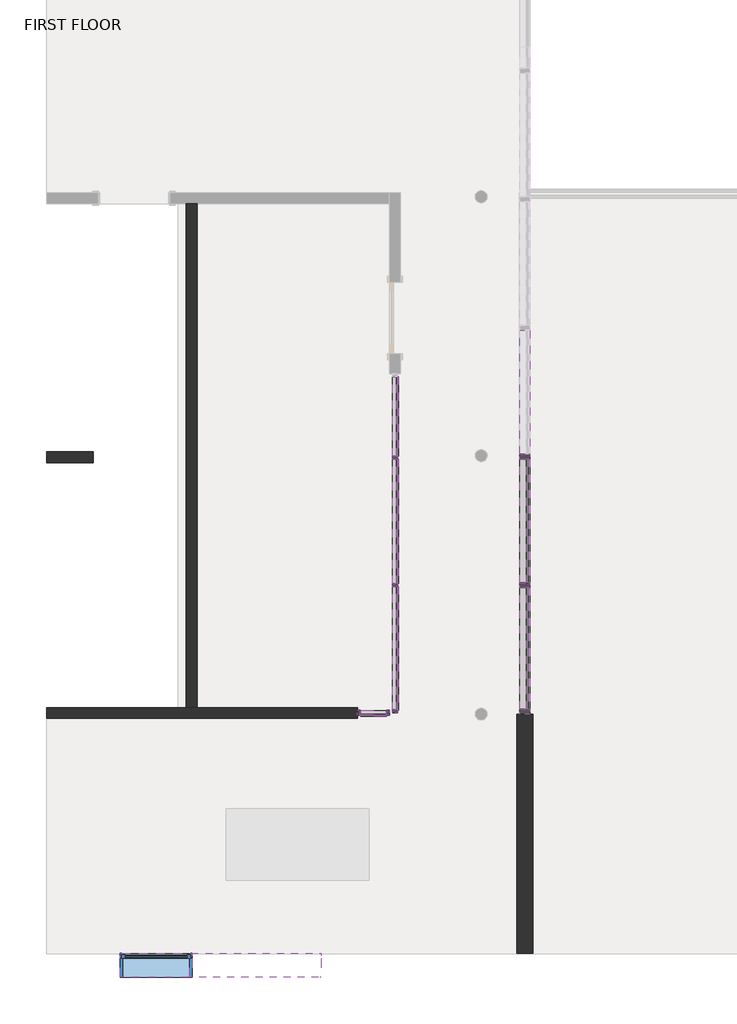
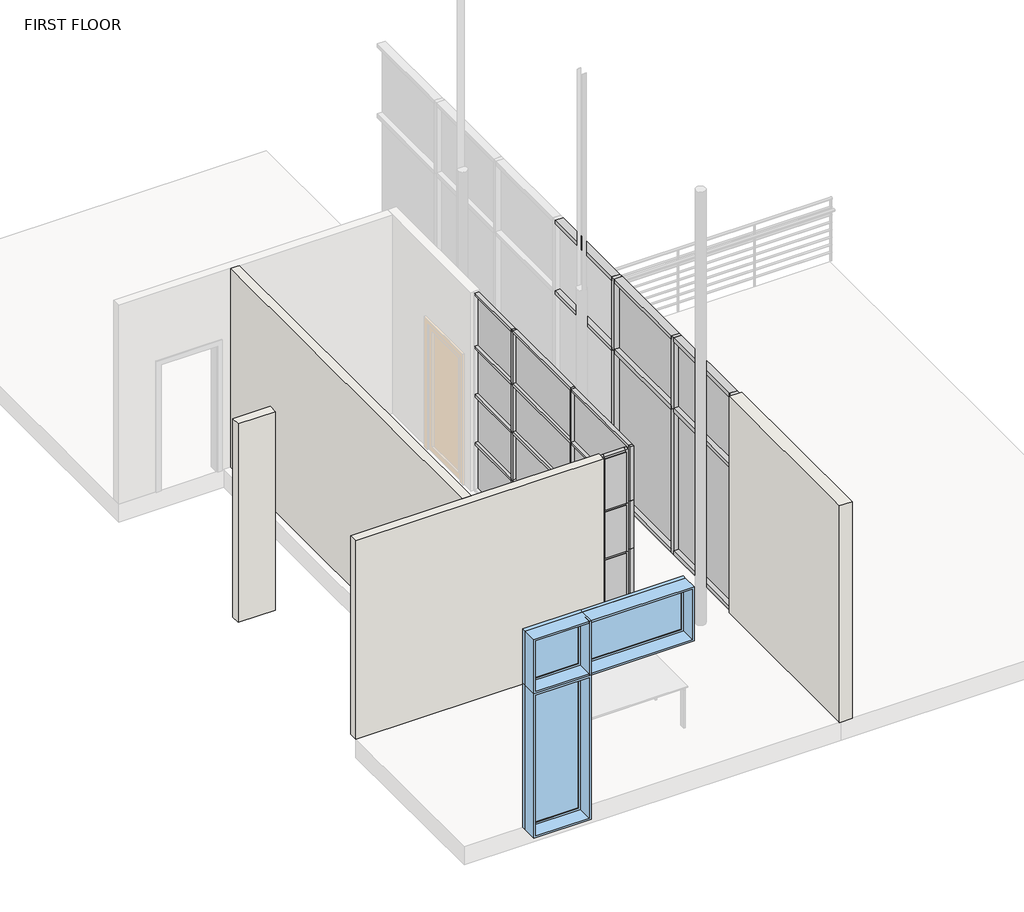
# One storey, part 1 of 2: 53 members, 20 plates, 4 walls, 3 windows.
"""IFC4 building model written with IfcOpenShell, lengths in millimetres."""

from ifc_helpers import new_model, si_unit, frame, origin, place, context, project, spatial, polyline, outline, extrude, faceted_brep, transform, mapped, element, save
from components import member_3d7f9b7e, member_a096cd44, member_be47aeaa, member_5efed619, member_481e25ef, member_17fda1fe, member_40da84cb, member_16f9eb11, member_2046a979, member_c5b617ba, member_b31159f8, member_b36b38ba, member_7ffb4a7b, member_f0fea5a5, member_591cd9a7, member_ec06d1cd, member_6ce1ec76, member_2b49869a, member_ee409385, member_75074519, system_panel_system_panel_6c834083, system_panel_system_panel_0ca576fe, system_panel_system_panel_459aa32f, system_panel_system_panel_79724349, system_panel_system_panel_5d59a0b6, system_panel_system_panel_d2f40076, system_panel_system_panel_36b3ad26, system_panel_system_panel_a8a6c9f9, system_panel_system_panel_7275595e, system_panel_system_panel_1c682c2c, system_panel_system_panel_1b284ea7, system_panel_system_panel_dfb6c3b7, system_panel_system_panel_f518bfc7, system_panel_system_panel_9512511a, system_panel_system_panel_630169c6, system_panel_system_panel_b5158d26, fixed_909a47ac, window_32fa4092, window_57972af0

model = new_model("IFC4")

# Units and contexts
model_context = context("Model", 3, world=origin())
ifc_project = project(units=[si_unit("LENGTHUNIT", "METRE", prefix="MILLI")], contexts=[model_context])

# Site, building, storey
site = spatial("IfcSite", under=ifc_project)
building = spatial("IfcBuilding", under=site)
storey = spatial("IfcBuildingStorey", under=building, Name="FIRST FLOOR", Elevation=3657.6)

# Members
placement = place(None, origin())
member_shape = member_3d7f9b7e(model_context)
element("IfcMember", 1, ObjectType="Rectangular Mullion : 1.5\" x 2.5\" rectangular", at=placement, inside=storey, context=model_context, shape_type="MappedRepresentation", body=[
    mapped(member_shape, transform((-25.1604947, -352.7189983, 7010.4), x_axis=(0.0, 0.0, 1.0), y_axis=(-1.0, 0.0, 0.0), z_axis=(0.0, -1.0, 0.0))),
])
member_2_shape = member_a096cd44(model_context)
element("IfcMember", 2, ObjectType="Rectangular Mullion : 1.5\" x 2.5\" rectangular", at=placement, inside=storey, context=model_context, shape_type="MappedRepresentation", body=[
    mapped(member_2_shape, transform((-25.1604947, -3584.8689983, 7010.4), x_axis=(0.0, 0.0, 1.0), y_axis=(-1.0, 0.0, 0.0), z_axis=(0.0, -1.0, 0.0))),
])
member_3_shape = member_be47aeaa(model_context)
element("IfcMember", 3, ObjectType="Rectangular Mullion : 1.5\" x 2.5\" rectangular", at=placement, inside=storey, context=model_context, shape_type="MappedRepresentation", body=[
    mapped(member_3_shape, transform((-25.1604947, -371.7689983, 3657.6), x_axis=(0.0, -1.0, 0.0), y_axis=(-1.0, 0.0, 0.0), z_axis=(0.0, 0.0, -1.0))),
])
element("IfcMember", 4, ObjectType="Rectangular Mullion : 1.5\" x 2.5\" rectangular", at=placement, inside=storey, context=model_context, shape_type="MappedRepresentation", body=[
    mapped(member_3_shape, transform((-25.1604947, -1997.3689983, 3657.6), x_axis=(0.0, -1.0, 0.0), y_axis=(-1.0, 0.0, 0.0), z_axis=(0.0, 0.0, -1.0))),
])
member_4_shape = member_5efed619(model_context)
element("IfcMember", 5, ObjectType="Rectangular Mullion : 1.5\" x 2.5\" rectangular", at=placement, inside=storey, context=model_context, shape_type="MappedRepresentation", body=[
    mapped(member_4_shape, transform((-25.1604947, -352.7189983, 6096.0), x_axis=(0.0, 0.0, 1.0), y_axis=(-1.0, 0.0, 0.0), z_axis=(0.0, -1.0, 0.0))),
])
element("IfcMember", 6, ObjectType="Rectangular Mullion : 1.5\" x 2.5\" rectangular", at=placement, inside=storey, context=model_context, shape_type="MappedRepresentation", body=[
    mapped(member_4_shape, transform((-25.1604947, -352.7189983, 5283.2), x_axis=(0.0, 0.0, 1.0), y_axis=(-1.0, 0.0, 0.0), z_axis=(0.0, -1.0, 0.0))),
])
element("IfcMember", 7, ObjectType="Rectangular Mullion : 1.5\" x 2.5\" rectangular", at=placement, inside=storey, context=model_context, shape_type="MappedRepresentation", body=[
    mapped(member_4_shape, transform((-25.1604947, -352.7189983, 4470.4), x_axis=(0.0, 0.0, 1.0), y_axis=(-1.0, 0.0, 0.0), z_axis=(0.0, -1.0, 0.0))),
])
member_5_shape = member_481e25ef(model_context)
element("IfcMember", 8, ObjectType="Rectangular Mullion : 1.5\" x 2.5\" rectangular", at=placement, inside=storey, context=model_context, shape_type="MappedRepresentation", body=[
    mapped(member_5_shape, transform((-25.1604947, -1978.3189983, 6096.0), x_axis=(0.0, 0.0, 1.0), y_axis=(-1.0, 0.0, 0.0), z_axis=(0.0, -1.0, 0.0))),
])
element("IfcMember", 9, ObjectType="Rectangular Mullion : 1.5\" x 2.5\" rectangular", at=placement, inside=storey, context=model_context, shape_type="MappedRepresentation", body=[
    mapped(member_5_shape, transform((-25.1604947, -1978.3189983, 5283.2), x_axis=(0.0, 0.0, 1.0), y_axis=(-1.0, 0.0, 0.0), z_axis=(0.0, -1.0, 0.0))),
])
element("IfcMember", 10, ObjectType="Rectangular Mullion : 1.5\" x 2.5\" rectangular", at=placement, inside=storey, context=model_context, shape_type="MappedRepresentation", body=[
    mapped(member_5_shape, transform((-25.1604947, -1978.3189983, 4470.4), x_axis=(0.0, 0.0, 1.0), y_axis=(-1.0, 0.0, 0.0), z_axis=(0.0, -1.0, 0.0))),
])
member_6_shape = member_17fda1fe(model_context)
element("IfcMember", 11, ObjectType="Rectangular Mullion : 1.5\" x 2.5\" rectangular", at=placement, inside=storey, context=model_context, shape_type="MappedRepresentation", body=[
    mapped(member_6_shape, transform((-25.1604947, -3584.8689983, 6096.0), x_axis=(0.0, 0.0, 1.0), y_axis=(-1.0, 0.0, 0.0), z_axis=(0.0, -1.0, 0.0))),
])
element("IfcMember", 12, ObjectType="Rectangular Mullion : 1.5\" x 2.5\" rectangular", at=placement, inside=storey, context=model_context, shape_type="MappedRepresentation", body=[
    mapped(member_6_shape, transform((-25.1604947, -3584.8689983, 5283.2), x_axis=(0.0, 0.0, 1.0), y_axis=(-1.0, 0.0, 0.0), z_axis=(0.0, -1.0, 0.0))),
])
element("IfcMember", 13, ObjectType="Rectangular Mullion : 1.5\" x 2.5\" rectangular", at=placement, inside=storey, context=model_context, shape_type="MappedRepresentation", body=[
    mapped(member_6_shape, transform((-25.1604947, -3584.8689983, 4470.4), x_axis=(0.0, 0.0, 1.0), y_axis=(-1.0, 0.0, 0.0), z_axis=(0.0, -1.0, 0.0))),
])
member_7_shape = member_40da84cb(model_context)
element("IfcMember", 14, ObjectType="Rectangular Mullion : 1.5\" x 2.5\" rectangular", at=placement, inside=storey, context=model_context, shape_type="MappedRepresentation", body=[
    mapped(member_7_shape, transform((-25.1604947, -1978.3189983, 7010.4), x_axis=(0.0, 0.0, 1.0), y_axis=(-1.0, 0.0, 0.0), z_axis=(0.0, -1.0, 0.0))),
])
member_8_shape = member_16f9eb11(model_context)
element("IfcMember", 15, ObjectType="Rectangular Mullion : 1.5\" x 2.5\" rectangular", at=placement, inside=storey, context=model_context, shape_type="MappedRepresentation", body=[
    mapped(member_8_shape, transform((-25.1604947, -371.7689983, 6096.0), x_axis=(0.0, -1.0, 0.0), y_axis=(-1.0, 0.0, 0.0), z_axis=(0.0, 0.0, -1.0))),
])
element("IfcMember", 16, ObjectType="Rectangular Mullion : 1.5\" x 2.5\" rectangular", at=placement, inside=storey, context=model_context, shape_type="MappedRepresentation", body=[
    mapped(member_8_shape, transform((-25.1604947, -1997.3689983, 6096.0), x_axis=(0.0, -1.0, 0.0), y_axis=(-1.0, 0.0, 0.0), z_axis=(0.0, 0.0, -1.0))),
])
element("IfcMember", 17, ObjectType="Rectangular Mullion : 1.5\" x 2.5\" rectangular", at=placement, inside=storey, context=model_context, shape_type="MappedRepresentation", body=[
    mapped(member_3_shape, transform((-25.1604947, -371.7689983, 5283.2), x_axis=(0.0, -1.0, 0.0), y_axis=(-1.0, 0.0, 0.0), z_axis=(0.0, 0.0, -1.0))),
])
element("IfcMember", 18, ObjectType="Rectangular Mullion : 1.5\" x 2.5\" rectangular", at=placement, inside=storey, context=model_context, shape_type="MappedRepresentation", body=[
    mapped(member_3_shape, transform((-25.1604947, -371.7689983, 4470.4), x_axis=(0.0, -1.0, 0.0), y_axis=(-1.0, 0.0, 0.0), z_axis=(0.0, 0.0, -1.0))),
])
element("IfcMember", 19, ObjectType="Rectangular Mullion : 1.5\" x 2.5\" rectangular", at=placement, inside=storey, context=model_context, shape_type="MappedRepresentation", body=[
    mapped(member_3_shape, transform((-25.1604947, -1997.3689983, 5283.2), x_axis=(0.0, -1.0, 0.0), y_axis=(-1.0, 0.0, 0.0), z_axis=(0.0, 0.0, -1.0))),
])
element("IfcMember", 20, ObjectType="Rectangular Mullion : 1.5\" x 2.5\" rectangular", at=placement, inside=storey, context=model_context, shape_type="MappedRepresentation", body=[
    mapped(member_3_shape, transform((-25.1604947, -1997.3689983, 4470.4), x_axis=(0.0, -1.0, 0.0), y_axis=(-1.0, 0.0, 0.0), z_axis=(0.0, 0.0, -1.0))),
])
member_9_shape = member_2046a979(model_context)
element("IfcMember", 21, ObjectType="Rectangular Mullion : 1.5\" x 2.5\" rectangular", at=placement, inside=storey, context=model_context, shape_type="MappedRepresentation", body=[
    mapped(member_9_shape, transform((-25.1604947, -3622.9689983, 3657.6), x_axis=(0.0, -1.0, 0.0), y_axis=(-1.0, 0.0, 0.0), z_axis=(0.0, 0.0, -1.0))),
])
element("IfcMember", 22, ObjectType="Rectangular Mullion : 1.5\" x 2.5\" rectangular", at=placement, inside=storey, context=model_context, shape_type="MappedRepresentation", body=[
    mapped(member_9_shape, transform((-507.7604947, -3622.9689983, 3657.6), x_axis=(-1.0, 0.0, 0.0), y_axis=(0.0, 1.0, 0.0), z_axis=(0.0, 0.0, -1.0))),
])
member_10_shape = member_c5b617ba(model_context)
element("IfcMember", 23, ObjectType="Rectangular Mullion : 1.5\" x 2.5\" rectangular", at=placement, inside=storey, context=model_context, shape_type="MappedRepresentation", body=[
    mapped(member_10_shape, transform((-25.1604947, -3622.9689983, 6096.0), x_axis=(0.0, -1.0, 0.0), y_axis=(-1.0, 0.0, 0.0), z_axis=(0.0, 0.0, -1.0))),
])
element("IfcMember", 24, ObjectType="Rectangular Mullion : 1.5\" x 2.5\" rectangular", at=placement, inside=storey, context=model_context, shape_type="MappedRepresentation", body=[
    mapped(member_10_shape, transform((-507.7604947, -3622.9689983, 6096.0), x_axis=(-1.0, 0.0, 0.0), y_axis=(0.0, 1.0, 0.0), z_axis=(0.0, 0.0, -1.0))),
])
element("IfcMember", 25, ObjectType="Rectangular Mullion : 1.5\" x 2.5\" rectangular", at=placement, inside=storey, context=model_context, shape_type="MappedRepresentation", body=[
    mapped(member_9_shape, transform((-25.1604947, -3622.9689983, 5283.2), x_axis=(0.0, -1.0, 0.0), y_axis=(-1.0, 0.0, 0.0), z_axis=(0.0, 0.0, -1.0))),
])
element("IfcMember", 26, ObjectType="Rectangular Mullion : 1.5\" x 2.5\" rectangular", at=placement, inside=storey, context=model_context, shape_type="MappedRepresentation", body=[
    mapped(member_9_shape, transform((-25.1604947, -3622.9689983, 4470.4), x_axis=(0.0, -1.0, 0.0), y_axis=(-1.0, 0.0, 0.0), z_axis=(0.0, 0.0, -1.0))),
])
element("IfcMember", 27, ObjectType="Rectangular Mullion : 1.5\" x 2.5\" rectangular", at=placement, inside=storey, context=model_context, shape_type="MappedRepresentation", body=[
    mapped(member_9_shape, transform((-507.7604947, -3622.9689983, 5283.2), x_axis=(-1.0, 0.0, 0.0), y_axis=(0.0, 1.0, 0.0), z_axis=(0.0, 0.0, -1.0))),
])
element("IfcMember", 28, ObjectType="Rectangular Mullion : 1.5\" x 2.5\" rectangular", at=placement, inside=storey, context=model_context, shape_type="MappedRepresentation", body=[
    mapped(member_9_shape, transform((-507.7604947, -3622.9689983, 4470.4), x_axis=(-1.0, 0.0, 0.0), y_axis=(0.0, 1.0, 0.0), z_axis=(0.0, 0.0, -1.0))),
])
member_11_shape = member_b31159f8(model_context)
element("IfcMember", 29, ObjectType="Rectangular Mullion : 1.5\" x 2.5\" rectangular", at=placement, inside=storey, context=model_context, shape_type="MappedRepresentation", body=[
    mapped(member_11_shape, transform((-469.6604947, -3622.9689983, 7010.4), x_axis=(0.0, 0.0, 1.0), y_axis=(0.0, 1.0, 0.0), z_axis=(-1.0, 0.0, 0.0))),
])
member_12_shape = member_b36b38ba(model_context)
element("IfcMember", 30, ObjectType="Rectangular Mullion : 1.5\" x 2.5\" rectangular", at=placement, inside=storey, context=model_context, shape_type="MappedRepresentation", body=[
    mapped(member_12_shape, transform((-469.6604947, -3622.9689983, 6096.0), x_axis=(0.0, 0.0, 1.0), y_axis=(0.0, 1.0, 0.0), z_axis=(-1.0, 0.0, 0.0))),
])
element("IfcMember", 31, ObjectType="Rectangular Mullion : 1.5\" x 2.5\" rectangular", at=placement, inside=storey, context=model_context, shape_type="MappedRepresentation", body=[
    mapped(member_12_shape, transform((-469.6604947, -3622.9689983, 5283.2), x_axis=(0.0, 0.0, 1.0), y_axis=(0.0, 1.0, 0.0), z_axis=(-1.0, 0.0, 0.0))),
])
element("IfcMember", 32, ObjectType="Rectangular Mullion : 1.5\" x 2.5\" rectangular", at=placement, inside=storey, context=model_context, shape_type="MappedRepresentation", body=[
    mapped(member_12_shape, transform((-469.6604947, -3622.9689983, 4470.4), x_axis=(0.0, 0.0, 1.0), y_axis=(0.0, 1.0, 0.0), z_axis=(-1.0, 0.0, 0.0))),
])
element("IfcMember", 33, ObjectType="Rectangular Mullion : 1.5\" x 2.5\" rectangular", at=placement, inside=storey, context=model_context, shape_type="MappedRepresentation", body=[
    mapped(member_11_shape, transform((-133.1104947, -3622.9689983, 3657.6), x_axis=(0.0, 0.0, -1.0), y_axis=(0.0, 1.0, 0.0), z_axis=(1.0, 0.0, 0.0))),
])
element("IfcMember", 34, ObjectType="Rectangular Mullion : 1.5\" x 2.5\" rectangular", at=placement, inside=storey, context=model_context, shape_type="MappedRepresentation", body=[
    mapped(member_7_shape, transform((-25.1604947, -390.8189983, 3657.6), x_axis=(0.0, 0.0, -1.0), y_axis=(-1.0, 0.0, 0.0), z_axis=(0.0, 1.0, 0.0))),
])
element("IfcMember", 35, ObjectType="Rectangular Mullion : 1.5\" x 2.5\" rectangular", at=placement, inside=storey, context=model_context, shape_type="MappedRepresentation", body=[
    mapped(member_2_shape, transform((-25.1604947, -2016.4189983, 3657.6), x_axis=(0.0, 0.0, -1.0), y_axis=(-1.0, 0.0, 0.0), z_axis=(0.0, 1.0, 0.0))),
])
element("IfcMember", 36, ObjectType="Rectangular Mullion : 1.5\" x 2.5\" rectangular", at=placement, inside=storey, context=model_context, shape_type="MappedRepresentation", body=[
    mapped(member_10_shape, transform((-95.0104947, -3622.9689983, 7010.4), x_axis=(1.0, 0.0, 0.0), y_axis=(0.0, 1.0, 0.0), z_axis=(0.0, 0.0, 1.0))),
])
element("IfcMember", 37, ObjectType="Rectangular Mullion : 1.5\" x 2.5\" rectangular", at=placement, inside=storey, context=model_context, shape_type="MappedRepresentation", body=[
    mapped(member_9_shape, transform((-95.0104947, -3622.9689983, 6096.0), x_axis=(1.0, 0.0, 0.0), y_axis=(0.0, 1.0, 0.0), z_axis=(0.0, 0.0, 1.0))),
])
element("IfcMember", 38, ObjectType="Rectangular Mullion : 1.5\" x 2.5\" rectangular", at=placement, inside=storey, context=model_context, shape_type="MappedRepresentation", body=[
    mapped(member_9_shape, transform((-95.0104947, -3622.9689983, 5283.2), x_axis=(1.0, 0.0, 0.0), y_axis=(0.0, 1.0, 0.0), z_axis=(0.0, 0.0, 1.0))),
])
element("IfcMember", 39, ObjectType="Rectangular Mullion : 1.5\" x 2.5\" rectangular", at=placement, inside=storey, context=model_context, shape_type="MappedRepresentation", body=[
    mapped(member_9_shape, transform((-95.0104947, -3622.9689983, 4470.4), x_axis=(1.0, 0.0, 0.0), y_axis=(0.0, 1.0, 0.0), z_axis=(0.0, 0.0, 1.0))),
])
member_13_shape = member_7ffb4a7b(model_context)
element("IfcMember", 40, ObjectType="Rectangular Mullion : 2.5\" x 5\" rectangular", at=placement, inside=storey, context=model_context, shape_type="MappedRepresentation", body=[
    mapped(member_13_shape, transform((1628.9560388, -3573.040357, 7315.2), x_axis=(0.0, 0.0, 1.0), y_axis=(-1.0, 0.0, 0.0), z_axis=(0.0, -1.0, 0.0))),
])
member_14_shape = member_f0fea5a5(model_context)
element("IfcMember", 41, ObjectType="Rectangular Mullion : 2.5\" x 5\" rectangular", at=placement, inside=storey, context=model_context, shape_type="MappedRepresentation", body=[
    mapped(member_14_shape, transform((1628.9560388, -359.940357, 3657.6), x_axis=(0.0, -1.0, 0.0), y_axis=(-1.0, 0.0, 0.0), z_axis=(0.0, 0.0, -1.0))),
])
element("IfcMember", 42, ObjectType="Rectangular Mullion : 2.5\" x 5\" rectangular", at=placement, inside=storey, context=model_context, shape_type="MappedRepresentation", body=[
    mapped(member_14_shape, transform((1628.9560388, -1998.240357, 3657.6), x_axis=(0.0, -1.0, 0.0), y_axis=(-1.0, 0.0, 0.0), z_axis=(0.0, 0.0, -1.0))),
])
member_15_shape = member_591cd9a7(model_context)
element("IfcMember", 43, ObjectType="Rectangular Mullion : 2.5\" x 5\" rectangular", at=placement, inside=storey, context=model_context, shape_type="MappedRepresentation", body=[
    mapped(member_15_shape, transform((1628.9560388, -1966.490357, 6096.0), x_axis=(0.0, 0.0, 1.0), y_axis=(-1.0, 0.0, 0.0), z_axis=(0.0, -1.0, 0.0))),
])
element("IfcMember", 44, ObjectType="Rectangular Mullion : 2.5\" x 5\" rectangular", at=placement, inside=storey, context=model_context, shape_type="MappedRepresentation", body=[
    mapped(member_15_shape, transform((1628.9560388, -328.190357, 6096.0), x_axis=(0.0, 0.0, 1.0), y_axis=(-1.0, 0.0, 0.0), z_axis=(0.0, -1.0, 0.0))),
])
member_16_shape = member_ec06d1cd(model_context)
element("IfcMember", 45, ObjectType="Rectangular Mullion : 2.5\" x 5\" rectangular", at=placement, inside=storey, context=model_context, shape_type="MappedRepresentation", body=[
    mapped(member_16_shape, transform((1628.9560388, -3573.040357, 6096.0), x_axis=(0.0, 0.0, 1.0), y_axis=(-1.0, 0.0, 0.0), z_axis=(0.0, -1.0, 0.0))),
])
member_17_shape = member_6ce1ec76(model_context)
element("IfcMember", 46, ObjectType="Rectangular Mullion : 2.5\" x 5\" rectangular", at=placement, inside=storey, context=model_context, shape_type="MappedRepresentation", body=[
    mapped(member_17_shape, transform((1628.9560388, -328.190357, 7315.2), x_axis=(0.0, 0.0, 1.0), y_axis=(-1.0, 0.0, 0.0), z_axis=(0.0, -1.0, 0.0))),
])
element("IfcMember", 47, ObjectType="Rectangular Mullion : 2.5\" x 5\" rectangular", at=placement, inside=storey, context=model_context, shape_type="MappedRepresentation", body=[
    mapped(member_17_shape, transform((1628.9560388, -1966.490357, 7315.2), x_axis=(0.0, 0.0, 1.0), y_axis=(-1.0, 0.0, 0.0), z_axis=(0.0, -1.0, 0.0))),
])
member_18_shape = member_2b49869a(model_context)
element("IfcMember", 48, ObjectType="Rectangular Mullion : 2.5\" x 5\" rectangular", at=placement, inside=storey, context=model_context, shape_type="MappedRepresentation", body=[
    mapped(member_18_shape, transform((1628.9560388, -359.940357, 6096.0), x_axis=(0.0, -1.0, 0.0), y_axis=(-1.0, 0.0, 0.0), z_axis=(0.0, 0.0, -1.0))),
])
element("IfcMember", 49, ObjectType="Rectangular Mullion : 2.5\" x 5\" rectangular", at=placement, inside=storey, context=model_context, shape_type="MappedRepresentation", body=[
    mapped(member_18_shape, transform((1628.9560388, -1998.240357, 6096.0), x_axis=(0.0, -1.0, 0.0), y_axis=(-1.0, 0.0, 0.0), z_axis=(0.0, 0.0, -1.0))),
])
member_19_shape = member_ee409385(model_context)
element("IfcMember", 50, ObjectType="Rectangular Mullion : 2.5\" x 5\" rectangular", at=placement, inside=storey, context=model_context, shape_type="MappedRepresentation", body=[
    mapped(member_19_shape, transform((1628.9560388, -3636.540357, 3657.6), x_axis=(0.0, -1.0, 0.0), y_axis=(-1.0, 0.0, 0.0), z_axis=(0.0, 0.0, -1.0))),
])
member_20_shape = member_75074519(model_context)
element("IfcMember", 51, ObjectType="Rectangular Mullion : 2.5\" x 5\" rectangular", at=placement, inside=storey, context=model_context, shape_type="MappedRepresentation", body=[
    mapped(member_20_shape, transform((1628.9560388, -3636.540357, 6096.0), x_axis=(0.0, -1.0, 0.0), y_axis=(-1.0, 0.0, 0.0), z_axis=(0.0, 0.0, -1.0))),
])
element("IfcMember", 52, ObjectType="Rectangular Mullion : 2.5\" x 5\" rectangular", at=placement, inside=storey, context=model_context, shape_type="MappedRepresentation", body=[
    mapped(member_17_shape, transform((1628.9560388, -391.690357, 3657.6), x_axis=(0.0, 0.0, -1.0), y_axis=(-1.0, 0.0, 0.0), z_axis=(0.0, 1.0, 0.0))),
])
element("IfcMember", 53, ObjectType="Rectangular Mullion : 2.5\" x 5\" rectangular", at=placement, inside=storey, context=model_context, shape_type="MappedRepresentation", body=[
    mapped(member_13_shape, transform((1628.9560388, -2029.990357, 3657.6), x_axis=(0.0, 0.0, -1.0), y_axis=(-1.0, 0.0, 0.0), z_axis=(0.0, 1.0, 0.0))),
])

# Plates
system_panel_system_panel_shape = system_panel_system_panel_6c834083(model_context)
element("IfcPlate", 54, ObjectType="System Panel : System Panel", at=placement, inside=storey, context=model_context, shape_type="MappedRepresentation", body=[
    mapped(system_panel_system_panel_shape, transform((1628.9560388, -1179.090357, 3721.1), x_axis=(0.0, -1.0, 0.0), y_axis=(1.0, 0.0, 0.0), z_axis=(0.0, 0.0, 1.0))),
])
system_panel_system_panel_2_shape = system_panel_system_panel_0ca576fe(model_context)
element("IfcPlate", 55, ObjectType="System Panel : System Panel", at=placement, inside=storey, context=model_context, shape_type="MappedRepresentation", body=[
    mapped(system_panel_system_panel_2_shape, transform((1628.9560388, -1179.090357, 6127.75), x_axis=(0.0, -1.0, 0.0), y_axis=(1.0, 0.0, 0.0), z_axis=(0.0, 0.0, 1.0))),
])
system_panel_system_panel_3_shape = system_panel_system_panel_459aa32f(model_context)
element("IfcPlate", 56, ObjectType="System Panel : System Panel", at=placement, inside=storey, context=model_context, shape_type="MappedRepresentation", body=[
    mapped(system_panel_system_panel_3_shape, transform((1628.9560388, -2801.515357, 3721.1), x_axis=(0.0, -1.0, 0.0), y_axis=(1.0, 0.0, 0.0), z_axis=(0.0, 0.0, 1.0))),
])
system_panel_system_panel_4_shape = system_panel_system_panel_79724349(model_context)
element("IfcPlate", 57, ObjectType="System Panel : System Panel", at=placement, inside=storey, context=model_context, shape_type="MappedRepresentation", body=[
    mapped(system_panel_system_panel_4_shape, transform((1628.9560388, -2801.515357, 6127.75), x_axis=(0.0, -1.0, 0.0), y_axis=(1.0, 0.0, 0.0), z_axis=(0.0, 0.0, 1.0))),
])
system_panel_system_panel_5_shape = system_panel_system_panel_5d59a0b6(model_context)
element("IfcPlate", 58, ObjectType="System Panel : System Panel", at=placement, inside=storey, context=model_context, shape_type="MappedRepresentation", body=[
    mapped(system_panel_system_panel_5_shape, transform((-25.1604947, 152.1060017, 3695.7), x_axis=(0.0, -1.0, 0.0), y_axis=(1.0, 0.0, 0.0), z_axis=(0.0, 0.0, 1.0))),
])
system_panel_system_panel_6_shape = system_panel_system_panel_d2f40076(model_context)
element("IfcPlate", 59, ObjectType="System Panel : System Panel", at=placement, inside=storey, context=model_context, shape_type="MappedRepresentation", body=[
    mapped(system_panel_system_panel_6_shape, transform((-25.1604947, -1184.5689983, 3695.7), x_axis=(0.0, -1.0, 0.0), y_axis=(1.0, 0.0, 0.0), z_axis=(0.0, 0.0, 1.0))),
])
system_panel_system_panel_7_shape = system_panel_system_panel_36b3ad26(model_context)
element("IfcPlate", 60, ObjectType="System Panel : System Panel", at=placement, inside=storey, context=model_context, shape_type="MappedRepresentation", body=[
    mapped(system_panel_system_panel_7_shape, transform((-25.1604947, -2800.6439983, 3695.7), x_axis=(0.0, -1.0, 0.0), y_axis=(1.0, 0.0, 0.0), z_axis=(0.0, 0.0, 1.0))),
])
system_panel_system_panel_8_shape = system_panel_system_panel_a8a6c9f9(model_context)
element("IfcPlate", 61, ObjectType="System Panel : System Panel", at=placement, inside=storey, context=model_context, shape_type="MappedRepresentation", body=[
    mapped(system_panel_system_panel_8_shape, transform((-25.1604947, 152.1060017, 6115.05), x_axis=(0.0, -1.0, 0.0), y_axis=(1.0, 0.0, 0.0), z_axis=(0.0, 0.0, 1.0))),
])
system_panel_system_panel_9_shape = system_panel_system_panel_7275595e(model_context)
element("IfcPlate", 62, ObjectType="System Panel : System Panel", at=placement, inside=storey, context=model_context, shape_type="MappedRepresentation", body=[
    mapped(system_panel_system_panel_9_shape, transform((-25.1604947, -1184.5689983, 6115.05), x_axis=(0.0, -1.0, 0.0), y_axis=(1.0, 0.0, 0.0), z_axis=(0.0, 0.0, 1.0))),
])
system_panel_system_panel_10_shape = system_panel_system_panel_1c682c2c(model_context)
element("IfcPlate", 63, ObjectType="System Panel : System Panel", at=placement, inside=storey, context=model_context, shape_type="MappedRepresentation", body=[
    mapped(system_panel_system_panel_10_shape, transform((-25.1604947, -2800.6439983, 6115.05), x_axis=(0.0, -1.0, 0.0), y_axis=(1.0, 0.0, 0.0), z_axis=(0.0, 0.0, 1.0))),
])
system_panel_system_panel_11_shape = system_panel_system_panel_1b284ea7(model_context)
element("IfcPlate", 64, ObjectType="System Panel : System Panel", at=placement, inside=storey, context=model_context, shape_type="MappedRepresentation", body=[
    mapped(system_panel_system_panel_11_shape, transform((-25.1604947, 152.1060017, 5302.25), x_axis=(0.0, -1.0, 0.0), y_axis=(1.0, 0.0, 0.0), z_axis=(0.0, 0.0, 1.0))),
])
element("IfcPlate", 65, ObjectType="System Panel : System Panel", at=placement, inside=storey, context=model_context, shape_type="MappedRepresentation", body=[
    mapped(system_panel_system_panel_11_shape, transform((-25.1604947, 152.1060017, 4489.45), x_axis=(0.0, -1.0, 0.0), y_axis=(1.0, 0.0, 0.0), z_axis=(0.0, 0.0, 1.0))),
])
system_panel_system_panel_12_shape = system_panel_system_panel_dfb6c3b7(model_context)
element("IfcPlate", 66, ObjectType="System Panel : System Panel", at=placement, inside=storey, context=model_context, shape_type="MappedRepresentation", body=[
    mapped(system_panel_system_panel_12_shape, transform((-25.1604947, -1184.5689983, 5302.25), x_axis=(0.0, -1.0, 0.0), y_axis=(1.0, 0.0, 0.0), z_axis=(0.0, 0.0, 1.0))),
])
element("IfcPlate", 67, ObjectType="System Panel : System Panel", at=placement, inside=storey, context=model_context, shape_type="MappedRepresentation", body=[
    mapped(system_panel_system_panel_12_shape, transform((-25.1604947, -1184.5689983, 4489.45), x_axis=(0.0, -1.0, 0.0), y_axis=(1.0, 0.0, 0.0), z_axis=(0.0, 0.0, 1.0))),
])
system_panel_system_panel_13_shape = system_panel_system_panel_f518bfc7(model_context)
element("IfcPlate", 68, ObjectType="System Panel : System Panel", at=placement, inside=storey, context=model_context, shape_type="MappedRepresentation", body=[
    mapped(system_panel_system_panel_13_shape, transform((-25.1604947, -2800.6439983, 5302.25), x_axis=(0.0, -1.0, 0.0), y_axis=(1.0, 0.0, 0.0), z_axis=(0.0, 0.0, 1.0))),
])
element("IfcPlate", 69, ObjectType="System Panel : System Panel", at=placement, inside=storey, context=model_context, shape_type="MappedRepresentation", body=[
    mapped(system_panel_system_panel_13_shape, transform((-25.1604947, -2800.6439983, 4489.45), x_axis=(0.0, -1.0, 0.0), y_axis=(1.0, 0.0, 0.0), z_axis=(0.0, 0.0, 1.0))),
])
system_panel_system_panel_14_shape = system_panel_system_panel_9512511a(model_context)
element("IfcPlate", 70, ObjectType="System Panel : System Panel", at=placement, inside=storey, context=model_context, shape_type="MappedRepresentation", body=[
    mapped(system_panel_system_panel_14_shape, transform((-301.3854947, -3622.9689983, 3695.7), x_axis=(-1.0, 0.0, 0.0), y_axis=(0.0, -1.0, 0.0), z_axis=(0.0, 0.0, 1.0))),
])
system_panel_system_panel_15_shape = system_panel_system_panel_630169c6(model_context)
element("IfcPlate", 71, ObjectType="System Panel : System Panel", at=placement, inside=storey, context=model_context, shape_type="MappedRepresentation", body=[
    mapped(system_panel_system_panel_15_shape, transform((-301.3854947, -3622.9689983, 6115.05), x_axis=(-1.0, 0.0, 0.0), y_axis=(0.0, -1.0, 0.0), z_axis=(0.0, 0.0, 1.0))),
])
system_panel_system_panel_16_shape = system_panel_system_panel_b5158d26(model_context)
element("IfcPlate", 72, ObjectType="System Panel : System Panel", at=placement, inside=storey, context=model_context, shape_type="MappedRepresentation", body=[
    mapped(system_panel_system_panel_16_shape, transform((-301.3854947, -3622.9689983, 5302.25), x_axis=(-1.0, 0.0, 0.0), y_axis=(0.0, -1.0, 0.0), z_axis=(0.0, 0.0, 1.0))),
])
element("IfcPlate", 73, ObjectType="System Panel : System Panel", at=placement, inside=storey, context=model_context, shape_type="MappedRepresentation", body=[
    mapped(system_panel_system_panel_16_shape, transform((-301.3854947, -3622.9689983, 4489.45), x_axis=(-1.0, 0.0, 0.0), y_axis=(0.0, -1.0, 0.0), z_axis=(0.0, 0.0, 1.0))),
])

# Walls
element("IfcWall", 74, ObjectType="Generic - 8\"", at=placement, inside=storey, context=model_context, shape_type="SweptSolid", body=[
    extrude(outline(polyline([(1527.3560388, -6684.540357), (1527.3560388, -3636.540357), (1730.5560388, -3636.540357), (1730.5560388, -6684.540357), (1527.3560388, -6684.540357)])), frame((0.0, 0.0, 3657.6), z_axis=(0.0, 0.0, 1.0), x_axis=(1.0, 0.0, 0.0)), (0.0, 0.0, 1.0), 3657.6),
])
element("IfcWall", 75, ObjectType="Interior - 5 1/2\" Partition (1-hr)", at=placement, inside=storey, context=model_context, shape_type="SweptSolid", body=[
    extrude(outline(polyline([(-2546.1104947, 2860.3810017), (-2546.1104947, -3553.1189983), (-2685.8104947, -3553.1189983), (-2685.8104947, 2860.3810017), (-2546.1104947, 2860.3810017)])), frame((0.0, 0.0, 3657.6), z_axis=(0.0, 0.0, 1.0), x_axis=(1.0, 0.0, 0.0)), (0.0, 0.0, 1.0), 3352.8),
])
element("IfcWall", 76, ObjectType="Interior - 5 1/2\" Partition (1-hr)", at=placement, inside=storey, context=model_context, shape_type="SweptSolid", body=[
    extrude(outline(polyline([(-4467.0439612, -295.591531), (-3873.8507743, -295.591531), (-3873.8507743, -435.291531), (-4467.0439612, -435.291531), (-4467.0439612, -295.591531)])), frame((0.0, 0.0, 3657.6), z_axis=(0.0, 0.0, 1.0), x_axis=(1.0, 0.0, 0.0)), (0.0, 0.0, 1.0), 3352.8),
])
element("IfcWall", 77, ObjectType="Interior - 5 1/2\" Partition (1-hr)", at=placement, inside=storey, context=model_context, shape_type="Brep", body=[
    faceted_brep([(-507.7604947, -3553.1189983, 3657.6), (-2546.1104947, -3553.1189983, 3657.6), (-2685.8104947, -3553.1189983, 3657.6), (-4467.0439612, -3553.1189983, 3657.6), (-4467.0439612, -3553.1189983, 7010.4), (-2685.8104947, -3553.1189983, 7010.4), (-2546.1104947, -3553.1189983, 7010.4), (-507.7604947, -3553.1189983, 7010.4), (-507.7604947, -3692.8189983, 3657.6), (-507.7604947, -3692.8189983, 7010.4), (-4467.0439612, -3692.8189983, 7010.4), (-4467.0439612, -3692.8189983, 3657.6)], [[[0, 1, 2, 3, 4, 5, 6, 7]], [[8, 9, 10, 11]], [[3, 2, 1, 0, 8, 11]], [[0, 7, 9, 8]], [[4, 3, 11, 10]], [[7, 6, 5, 4, 10, 9]]]),
])

# Windows
fixed_shape = fixed_909a47ac(model_context)
element("IfcWindow", 78, ObjectType="Fixed : 36 \" x 36\"", at=placement, inside=storey, context=model_context, shape_type="MappedRepresentation", body=[
    mapped(fixed_shape, transform((-3031.9439612, -6836.940357, 5181.6), x_axis=(1.0, 0.0, 0.0), y_axis=(0.0, 1.0, 0.0), z_axis=(0.0, 0.0, 1.0))),
])
window_shape = window_32fa4092(model_context)
element("IfcWindow", 79, ObjectType="Fixed : 36\" x 66\"", at=placement, inside=storey, context=model_context, shape_type="MappedRepresentation", body=[
    mapped(window_shape, transform((-1768.2939612, -6836.940357, 5181.6), x_axis=(1.0, 0.0, 0.0), y_axis=(0.0, 1.0, 0.0), z_axis=(0.0, 0.0, 1.0))),
])
window_2_shape = window_57972af0(model_context)
element("IfcWindow", 80, ObjectType="Fixed : 96\" x 36\"", at=placement, inside=storey, context=model_context, shape_type="MappedRepresentation", body=[
    mapped(window_2_shape, transform((-3031.9439612, -6836.940357, 2743.2), x_axis=(1.0, 0.0, 0.0), y_axis=(0.0, 1.0, 0.0), z_axis=(0.0, 0.0, 1.0))),
])

save(model, "model.ifc")
